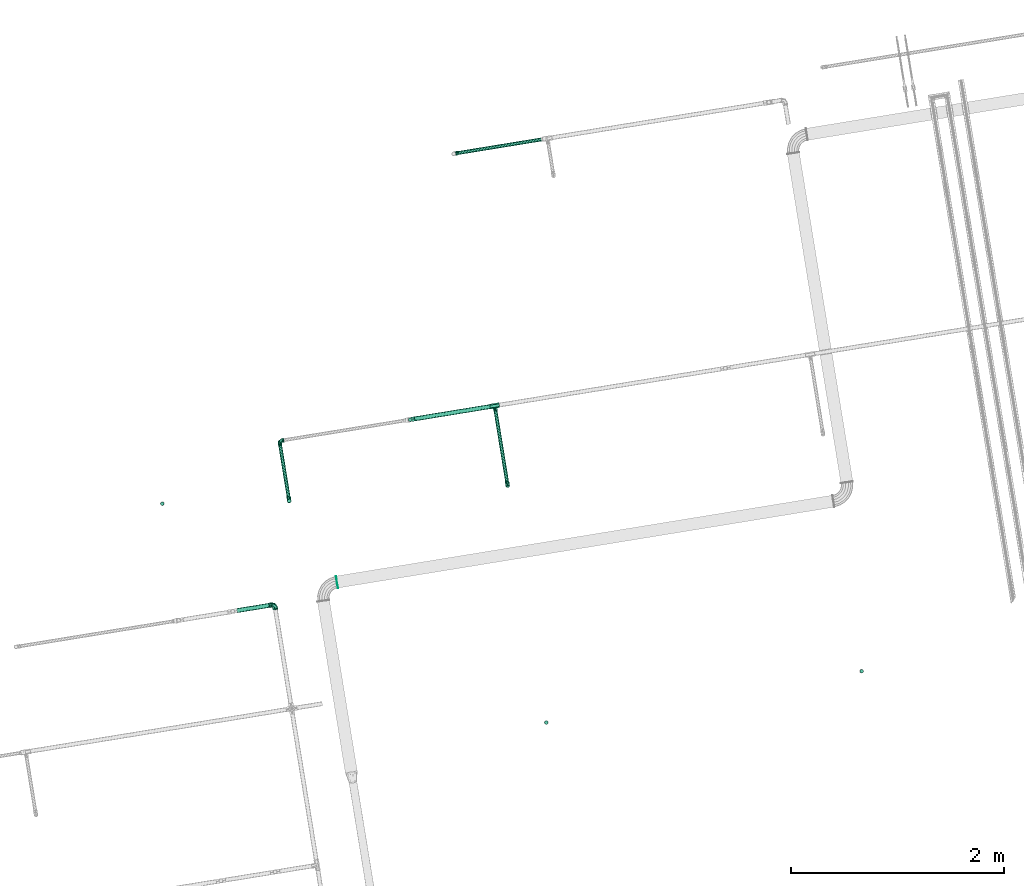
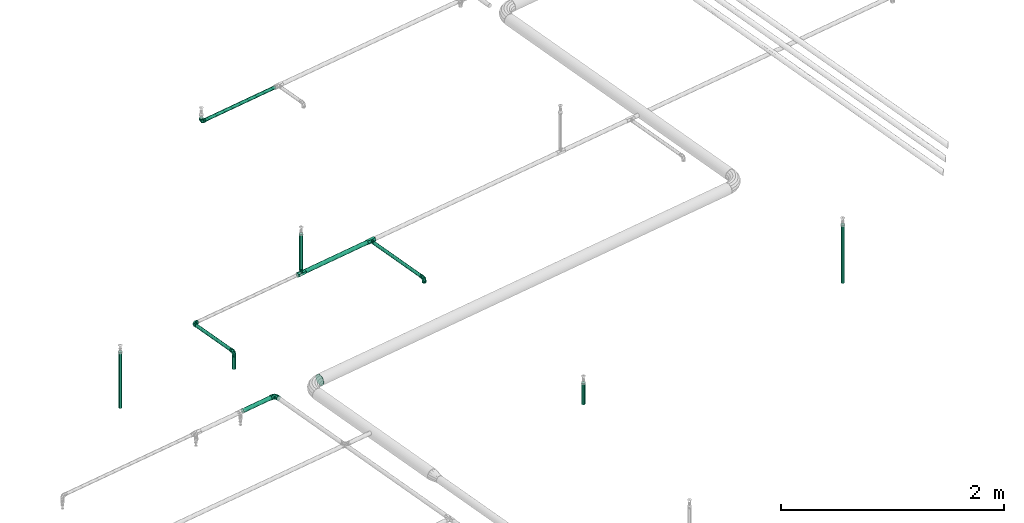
# One storey, part 23 of 46: 10 flow segments, 8 flow fittings.
"""IFC2X3 building model written with IfcOpenShell, lengths in millimetres."""

from ifc_helpers import new_model, entity, si_unit, converted_unit, derived_unit, direction, frame, frame_2d, origin, origin_with_axes, origin_2d_with_axis, place, context, subcontext, project, spatial, circle, extrude, faceted_brep, source, transform, mapped, material, type_object, element, save


model = new_model("IFC2X3")

# Units and contexts
model_context = context("Model", 3, precision=0.01, world=origin(), true_north=direction((6.12323399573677e-17, 1.0)))
plan_context = context("Plan", 3, precision=1e-05, world=origin_with_axes())
body_context = subcontext(model_context, "Body", "Model", "MODEL_VIEW")
ifc_project = project(units=[converted_unit("PLANEANGLEUNIT", "DEGREE", entity("IfcPositiveLengthMeasure", 0.0174532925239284), si_unit("PLANEANGLEUNIT", "RADIAN"), dimensions=[0, 0, 0, 0, 0, 0, 0]), si_unit("AREAUNIT", "SQUARE_METRE"), si_unit("LENGTHUNIT", "METRE", prefix="MILLI"), si_unit("MASSUNIT", "GRAM", prefix="KILO"), si_unit("POWERUNIT", "WATT"), si_unit("PRESSUREUNIT", "PASCAL", prefix="KILO"), si_unit("FORCEUNIT", "NEWTON", prefix="KILO"), si_unit("ELECTRICVOLTAGEUNIT", "VOLT"), si_unit("ELECTRICCURRENTUNIT", "AMPERE"), si_unit("THERMODYNAMICTEMPERATUREUNIT", "DEGREE_CELSIUS"), si_unit("TIMEUNIT", "SECOND"), si_unit("VOLUMEUNIT", "CUBIC_METRE"), derived_unit("LINEARVELOCITYUNIT", [(si_unit("LENGTHUNIT", "METRE"), 1), (si_unit("TIMEUNIT", "SECOND"), -1)]), derived_unit("VOLUMETRICFLOWRATEUNIT", [(si_unit("VOLUMEUNIT", "CUBIC_METRE"), 1), (si_unit("TIMEUNIT", "SECOND"), -1)]), derived_unit("THERMALTRANSMITTANCEUNIT", [(si_unit("POWERUNIT", "WATT"), 1), (si_unit("THERMODYNAMICTEMPERATUREUNIT", "KELVIN"), -1), (si_unit("AREAUNIT", "SQUARE_METRE"), -1)]), derived_unit("SOUNDPRESSUREUNIT", [(si_unit("PRESSUREUNIT", "PASCAL"), 1)])], contexts=[model_context, plan_context])

# Site, building, storey
site_placement = place(None, frame((-3.09682673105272e-06, 1.93776733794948e-05, 0.0), z_axis=(0.0, 0.0, 1.0), x_axis=(-0.160806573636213, 0.986985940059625, 0.0)))
site = spatial("IfcSite", under=ifc_project, at=site_placement, Name="Default", CompositionType="ELEMENT")
building_placement = place(site_placement, frame((0.0, 0.0, 0.0), z_axis=(0.0, 0.0, 1.0), x_axis=(1.0, -2.77555756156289e-17, 0.0)))
building = spatial("IfcBuilding", under=site, at=building_placement, Name="Bygning (endres i Project Information)", CompositionType="ELEMENT")
storey_placement = place(building_placement, frame((0.0, 0.0, 51360.0000000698), z_axis=(0.0, 0.0, 1.0), x_axis=(1.0, -2.77555756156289e-17, 0.0)))
storey = spatial("IfcBuildingStorey", under=building, at=storey_placement, Name="H01-Nivå D+0,36", CompositionType="ELEMENT", Elevation=51360.0000000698)

# Flow fittings
ifc_material_1 = material(Name="<Unnamed>")
pipe_fitting_type_1 = type_object("IfcPipeFittingType", Name="Sveis:Sveis", PredefinedType="NOTDEFINED", material=ifc_material_1)
shared_shape_1 = source(origin(), body_context, "Body", "SweptSolid", [
    extrude(circle(Radius=57.15, at=frame_2d((-2.60051383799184e-15, -9.23283724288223e-14), x_axis=(1.0, 0.0))), origin(), (0.0, 0.0, 1.0), 2.0),
])
flow_fitting_1_placement = place(storey_placement, frame((1004893.45605167, -347249.584018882, 3299.95000040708), z_axis=(-2.77555756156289e-17, -1.0, 0.0), x_axis=(1.0, -2.77555756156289e-17, 0.0)))
element("IfcFlowFitting", 1, at=flow_fitting_1_placement, inside=storey, type_object=pipe_fitting_type_1, material=ifc_material_1, Name="Sveis:Sveis", ObjectType="Sveis:Sveis", context=body_context, shape_type="MappedRepresentation", body=[
    mapped(shared_shape_1, transform((0.0, 0.0, 0.0), scale=1.0)),
])
ifc_material_2 = material(Name="3320.001")
pipe_fitting_type_2 = type_object("IfcPipeFittingType", Name="RS_53_PIF_UN_Tee-Reduced-EN10241_MC_gen:RS_53_PIF_UN_Tee-Reduced-EN10241_MC_gen", PredefinedType="NOTDEFINED", material=ifc_material_2)
shared_shape_2 = source(origin(), body_context, "Body", "Brep", [
    faceted_brep([(44.0, 24.4999999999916, 0.0), (44.0, 18.3749999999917, 10.6088111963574), (44.0, 12.2499999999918, 21.2176223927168), (44.0, 0.0, 21.2176223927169), (44.0, -12.2500000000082, 21.217622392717), (44.0, -18.3750000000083, 10.6088111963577), (44.0, -24.5000000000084, 0.0), (44.0, -21.6281924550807, -4.97411657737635), (44.0, -18.3750000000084, -10.6088111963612), (44.0, -12.2500000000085, -21.2176223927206), (44.0, 0.0, -21.2176223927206), (44.0, 12.2499999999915, -21.2176223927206), (44.0, 18.3749999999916, -10.6088111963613), (-44.0, -12.2500000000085, -21.2176223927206), (-44.0, -18.3750000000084, -10.6088111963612), (-44.0, -24.5000000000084, 0.0), (-44.0, -21.6281923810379, 4.97411670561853), (-44.0, -18.3750000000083, 10.6088111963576), (-44.0, -12.2500000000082, 21.217622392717), (-44.0, 0.0, 21.2176223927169), (-44.0, 12.2499999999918, 21.2176223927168), (-44.0, 18.7563847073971, 9.94823350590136), (-44.0, 24.4999999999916, 0.0), (-44.0, 18.3749999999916, -10.6088111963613), (-44.0, 12.2499999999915, -21.2176223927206), (-44.0, 0.0, -21.2176223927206), (-8.07289668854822, -19.7195683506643, 9.70917342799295), (3.60420662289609, -14.9391367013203, 19.4183468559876), (15.7135516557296, -22.1097841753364, 4.85458671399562), (-19.7499999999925, -24.5000000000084, 0.0), (11.6771033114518, -19.7195683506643, 9.70917342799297), (19.7500000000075, -24.5000000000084, 0.0), (-15.715142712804, -22.1101683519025, -4.85429113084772), (-3.61057085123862, -14.9406734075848, -19.4171645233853), (-11.6802854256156, -19.7203367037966, -9.70858226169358), (8.06971457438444, -19.7203367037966, -9.70858226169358), (9.87500000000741, -51.0, -17.1040017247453), (14.8125000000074, -51.0, -8.55200086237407), (19.7500000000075, -51.0, 0.0), (14.8125000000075, -51.0, 8.55200086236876), (9.87500000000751, -51.0, 17.1040017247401), (0.0, -51.0, 17.1040017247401), (-9.87499999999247, -51.0, 17.1040017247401), (-14.8124999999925, -51.0, 8.55200086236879), (-19.7499999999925, -51.0, 0.0), (-14.8124999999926, -51.0, -8.55200086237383), (-9.87499999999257, -51.0, -17.1040017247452), (0.0, -51.0, -17.1040017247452)], [[[0, 1, 2, 3, 4, 5, 6, 7, 8, 9, 10, 11, 12]], [[13, 14, 15, 16, 17, 18, 19, 20, 21, 22, 23, 24, 25]], [[1, 0, 22, 21, 20, 2]], [[2, 20, 19, 3]], [[26, 17, 16]], [[18, 27, 19]], [[28, 6, 5]], [[29, 16, 15]], [[5, 27, 30, 28]], [[5, 4, 27]], [[27, 17, 26]], [[17, 27, 18]], [[26, 16, 29]], [[6, 28, 31]], [[19, 27, 3]], [[4, 3, 27]], [[32, 15, 14]], [[14, 33, 34, 32]], [[31, 7, 6]], [[35, 8, 7]], [[8, 33, 9]], [[33, 8, 35]], [[15, 32, 29]], [[24, 23, 22, 0, 12, 11]], [[25, 24, 11, 10]], [[14, 13, 33]], [[13, 25, 33]], [[35, 7, 31]], [[10, 33, 25]], [[10, 9, 33]], [[36, 37, 38, 39, 40, 41, 42, 43, 44, 45, 46, 47]], [[29, 45, 44]], [[34, 46, 45]], [[35, 36, 47]], [[33, 46, 34]], [[37, 36, 35]], [[45, 29, 32, 34]], [[31, 37, 35]], [[37, 31, 38]], [[47, 46, 33]], [[35, 47, 33]], [[31, 39, 38]], [[30, 40, 39]], [[26, 42, 41]], [[27, 40, 30]], [[43, 42, 26]], [[39, 31, 28, 30]], [[29, 43, 26]], [[43, 29, 44]], [[41, 40, 27]], [[26, 41, 27]]]),
])
for number, where, z_axis, x_axis in (
    (2, (1006288.36764382, -348173.710153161, 3299.95081497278), (1.0, -2.77555756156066e-17, 3.52015190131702e-23), (-2.77555756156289e-17, -0.999999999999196, 1.26826838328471e-06)),
    (3, (1006288.36764382, -348978.631006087, 3299.95183582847), (6.11859509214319e-05, 1.26826837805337e-06, 0.999999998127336), (-2.77555756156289e-17, -0.999999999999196, 1.26826838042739e-06)),
):
    element("IfcFlowFitting", number, at=place(storey_placement, frame(where, z_axis=z_axis, x_axis=x_axis)), inside=storey, type_object=pipe_fitting_type_2, material=ifc_material_2, Name="RS_53_PIF_UN_Tee-Reduced-EN10241_MC_gen:RS_53_PIF_UN_Tee-Reduced-EN10241_MC_gen", ObjectType="RS_53_PIF_UN_Tee-Reduced-EN10241_MC_gen:RS_53_PIF_UN_Tee-Reduced-EN10241_MC_gen", context=body_context, shape_type="MappedRepresentation", body=[
        mapped(shared_shape_2, transform((0.0, 0.0, 0.0), scale=1.0)),
    ])
pipe_fitting_type_3 = type_object("IfcPipeFittingType", Name="RS_53_PIF_UN_Elbow-EN10241_NOR:RS_53_PIF_UN_Elbow-EN10241_NOR", PredefinedType="NOTDEFINED", material=ifc_material_2)
shared_shape_3 = source(origin(), body_context, "Body", "Brep", [
    faceted_brep([(-43.0, 5.11167614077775, 19.0770350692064), (-43.0, 17.1040017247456, 9.87499999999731), (-43.0, 19.7500000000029, 0.0), (-43.0, 17.1040017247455, -9.87500000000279), (-43.0, 5.11167614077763, -19.0770350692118), (-43.0, -5.11167614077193, -19.0770350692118), (-43.0, -17.1040017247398, -9.87500000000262), (-43.0, -19.7499999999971, 0.0), (-43.0, -17.1040017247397, 9.87499999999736), (-43.0, -5.11167614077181, 19.0770350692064), (-21.7499999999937, -19.7499999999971, 0.0), (-21.7499999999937, -15.1293510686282, -12.6950870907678), (-21.7499999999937, -3.42946974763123, -19.4499675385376), (-21.7499999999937, 15.1294711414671, -12.694943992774), (-21.7499999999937, 19.7500000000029, 0.0), (-21.7499999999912, 5.85000069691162, -16.072455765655), (-21.7499999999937, 15.1294711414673, 12.6949439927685), (-21.7499999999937, 3.42965371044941, 19.4499351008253), (-21.7499999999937, -15.1293510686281, 12.6950870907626), (-5.41688095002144, -10.3200693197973, 0.0), (0.655979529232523, -2.00253561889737, 16.4678355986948), (-11.0449015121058, 9.84579831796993, 18.897380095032), (-18.5589216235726, 21.7499999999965, 6.75491881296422), (-15.1293490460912, 21.7499999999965, 12.6950895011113), (-20.3357864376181, 20.3357864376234, 0.0), (-19.7499999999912, 21.7499999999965, 0.0), (14.190054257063, 1.0, 0.0), (12.6950125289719, 21.7499999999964, 15.1294136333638), (6.75482439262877, 21.7499999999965, 18.5589559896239), (17.2232575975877, 12.3200689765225, 0.0), (-6.754824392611, 21.7499999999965, 18.558955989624), (19.7500000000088, 21.7499999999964, 0.0), (18.5589216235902, 21.7499999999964, 6.75491881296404), (0.0, 21.7499999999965, 19.7499999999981), (-18.5589216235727, 21.7499999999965, -6.75491881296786), (-10.1618436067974, 10.1618877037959, -19.0082217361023), (1.2569166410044, -0.890945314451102, -16.7093898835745), (0.0, 21.7499999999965, -19.7500000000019), (-6.75482439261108, 21.7499999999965, -18.5589559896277), (-12.6950125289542, 21.7499999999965, -15.1294136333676), (18.5589216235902, 21.7499999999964, -6.75491881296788), (15.1293490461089, 21.7499999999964, -12.6950895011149), (6.75482439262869, 21.7499999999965, -18.5589559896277), (-9.8749999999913, 43.0, 17.1040017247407), (0.0, 43.0, 19.7499999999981), (9.8750000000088, 43.0, 17.1040017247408), (19.0770350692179, 43.0, 5.11167614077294), (19.0770350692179, 43.0, -5.11167614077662), (9.87500000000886, 43.0, -17.1040017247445), (0.0, 43.0, -19.7500000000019), (-9.87499999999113, 43.0, -17.1040017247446), (-19.0770350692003, 43.0, -5.11167614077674), (-19.0770350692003, 43.0, 5.11167614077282)], [[[0, 1, 2, 3, 4, 5, 6, 7, 8, 9]], [[7, 6, 10]], [[6, 11, 10]], [[11, 6, 5]], [[11, 5, 12]], [[13, 4, 3]], [[14, 3, 2]], [[4, 13, 15, 12]], [[13, 3, 14]], [[4, 12, 5]], [[2, 1, 14]], [[1, 16, 14]], [[16, 1, 0]], [[16, 0, 17]], [[18, 9, 8]], [[10, 8, 7]], [[9, 18, 17]], [[18, 8, 10]], [[9, 17, 0]], [[18, 19, 20]], [[20, 21, 17]], [[22, 16, 23]], [[16, 17, 21]], [[24, 14, 22]], [[22, 25, 24]], [[14, 16, 22]], [[20, 26, 27]], [[27, 28, 20]], [[26, 29, 27]], [[23, 21, 30]], [[31, 32, 29]], [[18, 20, 17]], [[26, 20, 19]], [[21, 23, 16]], [[18, 10, 19]], [[33, 21, 20]], [[33, 30, 21]], [[27, 29, 32]], [[33, 20, 28]], [[14, 24, 34]], [[25, 34, 24]], [[12, 35, 36]], [[14, 34, 13]], [[36, 19, 11]], [[37, 35, 38]], [[38, 35, 39]], [[10, 11, 19]], [[34, 39, 13]], [[37, 36, 35]], [[36, 11, 12]], [[39, 35, 13]], [[40, 31, 29]], [[41, 36, 42]], [[36, 37, 42]], [[41, 40, 29]], [[26, 36, 41]], [[29, 26, 41]], [[19, 36, 26]], [[13, 35, 12, 15]], [[43, 44, 45, 46, 47, 48, 49, 50, 51, 52]], [[49, 37, 38]], [[50, 38, 39]], [[49, 38, 50]], [[51, 50, 39]], [[51, 34, 25]], [[34, 51, 39]], [[52, 25, 22]], [[22, 23, 52]], [[30, 43, 23]], [[52, 23, 43]], [[44, 43, 30]], [[33, 44, 30]], [[25, 52, 51]], [[44, 33, 28]], [[45, 28, 27]], [[44, 28, 45]], [[46, 45, 27]], [[46, 32, 31]], [[32, 46, 27]], [[47, 31, 40]], [[40, 41, 47]], [[42, 48, 41]], [[47, 41, 48]], [[49, 48, 42]], [[37, 49, 42]], [[31, 47, 46]]]),
])
flow_fitting_2_placement = place(storey_placement, frame((1008686.77221849, -348978.631006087, 3299.97991647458), z_axis=(-1.0, 2.77555756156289e-17, 0.0), x_axis=(0.0, 0.0, -1.0)))
element("IfcFlowFitting", 4, at=flow_fitting_2_placement, inside=storey, type_object=pipe_fitting_type_3, material=ifc_material_2, Name="RS_53_PIF_UN_Elbow-EN10241_NOR:RS_53_PIF_UN_Elbow-EN10241_NOR", ObjectType="RS_53_PIF_UN_Elbow-EN10241_NOR:RS_53_PIF_UN_Elbow-EN10241_NOR", context=body_context, shape_type="MappedRepresentation", body=[
    mapped(shared_shape_3, transform((0.0, 0.0, 0.0), scale=1.0)),
])
pipe_fitting_type_4 = type_object("IfcPipeFittingType", Name="RS_53_PIF_UN_Elbow-EN10241_NOR:RS_53_PIF_UN_Elbow-EN10241_NOR", PredefinedType="NOTDEFINED", material=ifc_material_2)
flow_fitting_3_placement = place(storey_placement, frame((1006288.36764374, -346930.845437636, 3299.94923868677), z_axis=(6.90436672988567e-05, 1.2682683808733e-06, 0.999999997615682), x_axis=(2.77555756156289e-17, 0.999999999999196, -1.26826838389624e-06)))
element("IfcFlowFitting", 5, at=flow_fitting_3_placement, inside=storey, type_object=pipe_fitting_type_4, material=ifc_material_2, Name="RS_53_PIF_UN_Elbow-EN10241_NOR:RS_53_PIF_UN_Elbow-EN10241_NOR", ObjectType="RS_53_PIF_UN_Elbow-EN10241_NOR:RS_53_PIF_UN_Elbow-EN10241_NOR", context=body_context, shape_type="MappedRepresentation", body=[
    mapped(shared_shape_3, transform((0.0, 0.0, 0.0), scale=1.0)),
])
pipe_fitting_type_5 = type_object("IfcPipeFittingType", Name="RS_53_PIF_UN_Elbow-EN10241_NOR:RS_53_PIF_UN_Elbow-EN10241_NOR", PredefinedType="NOTDEFINED", material=ifc_material_2)
flow_fitting_4_placement = place(storey_placement, frame((1005716.96145091, -346930.845437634, 3300.00165014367), z_axis=(2.77555756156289e-17, 1.0, 0.0), x_axis=(0.0, 0.0, 1.0)))
element("IfcFlowFitting", 6, at=flow_fitting_4_placement, inside=storey, type_object=pipe_fitting_type_5, material=ifc_material_2, Name="RS_53_PIF_UN_Elbow-EN10241_NOR:RS_53_PIF_UN_Elbow-EN10241_NOR", ObjectType="RS_53_PIF_UN_Elbow-EN10241_NOR:RS_53_PIF_UN_Elbow-EN10241_NOR", context=body_context, shape_type="MappedRepresentation", body=[
    mapped(shared_shape_3, transform((0.0, 0.0, 0.0), scale=1.0)),
])
pipe_fitting_type_6 = type_object("IfcPipeFittingType", Name="RS_53_PIF_UN_Elbow-EN10241_NOR:RS_53_PIF_UN_Elbow-EN10241_NOR", PredefinedType="NOTDEFINED", material=ifc_material_2)
flow_fitting_5_placement = place(storey_placement, frame((1005529.26172123, -348978.631006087, 3300.00157040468), z_axis=(2.77555756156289e-17, 1.0, 0.0), x_axis=(0.0, 0.0, 1.0)))
element("IfcFlowFitting", 7, at=flow_fitting_5_placement, inside=storey, type_object=pipe_fitting_type_6, material=ifc_material_2, Name="RS_53_PIF_UN_Elbow-EN10241_NOR:RS_53_PIF_UN_Elbow-EN10241_NOR", ObjectType="RS_53_PIF_UN_Elbow-EN10241_NOR:RS_53_PIF_UN_Elbow-EN10241_NOR", context=body_context, shape_type="MappedRepresentation", body=[
    mapped(shared_shape_3, transform((0.0, 0.0, 0.0), scale=1.0)),
])
pipe_fitting_type_7 = type_object("IfcPipeFittingType", Name="RS_53_PIF_UN_Elbow-EN10241_NOR:RS_53_PIF_UN_Elbow-EN10241_NOR", PredefinedType="NOTDEFINED", material=ifc_material_2)
shared_shape_4 = source(origin(), body_context, "Body", "Brep", [
    faceted_brep([(-51.0, -6.3410666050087, 23.6651827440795), (-51.0, 6.34106660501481, 23.6651827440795), (-51.0, 21.2176223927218, 12.2499999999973), (-51.0, 24.500000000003, 0.0), (-51.0, 21.2176223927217, -12.2500000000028), (-51.0, 6.34106660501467, -23.6651827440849), (-51.0, -6.34106660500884, -23.6651827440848), (-51.0, -21.2176223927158, -12.2500000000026), (-51.0, -24.499999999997, 0.0), (-51.0, -21.2176223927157, 12.2499999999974), (-26.4999999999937, -24.499999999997, 0.0), (-26.4999999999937, -18.7681172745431, -15.748262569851), (-26.4999999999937, -4.25446743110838, -24.127774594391), (-26.4999999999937, 18.7679893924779, -15.7484149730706), (-26.4999999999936, 24.500000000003, 0.0), (-26.4999999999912, 7.25676098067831, -19.93809478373), (-26.4999999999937, 18.767989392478, 15.748414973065), (-26.4999999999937, 4.25427150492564, 24.1278091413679), (-26.4999999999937, -18.768117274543, 15.7482625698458), (9.56244584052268, -9.56244584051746, 0.0), (1.44520749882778, -2.06499718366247, 20.4706468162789), (-4.4422497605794, -15.3633806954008, 0.0), (-13.5214833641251, 12.0473079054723, 23.4561571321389), (-18.7679735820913, 26.4999999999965, 15.7484338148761), (-8.37919860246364, 26.4999999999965, 23.022576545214), (-25.0857864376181, 25.0857864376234, 0.0), (-23.0224385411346, 26.4999999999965, 8.37957777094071), (-24.4999999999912, 26.4999999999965, 0.0), (15.3633803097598, 4.44224882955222, 0.0), (19.9316901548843, 15.4711244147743, 0.0), (15.7481247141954, 26.4999999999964, 18.7682329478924), (8.37919860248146, 26.4999999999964, 23.0225765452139), (24.5000000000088, 26.4999999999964, 0.0), (23.0224385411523, 26.4999999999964, 8.37957777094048), (0.0, 26.4999999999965, 24.4999999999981), (-23.0224385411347, 26.4999999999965, -8.37957777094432), (1.80976526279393, -1.36091655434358, -20.6272450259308), (-15.7481247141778, 26.4999999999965, -18.7682329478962), (-8.37919860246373, 26.4999999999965, -23.0225765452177), (0.0, 26.4999999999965, -24.5000000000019), (18.767973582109, 26.4999999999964, -15.7484338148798), (23.0224385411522, 26.4999999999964, -8.37957777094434), (8.37919860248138, 26.4999999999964, -23.0225765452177), (0.0, 51.0, -24.5000000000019), (-12.2499999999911, 51.0, -21.2176223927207), (-23.6651827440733, 51.0, -6.34106660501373), (-23.6651827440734, 51.0, 6.34106660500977), (-12.2499999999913, 51.0, 21.2176223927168), (0.0, 51.0, 24.4999999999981), (12.2500000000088, 51.0, 21.2176223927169), (23.665182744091, 51.0, 6.34106660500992), (23.665182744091, 51.0, -6.34106660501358), (12.2500000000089, 51.0, -21.2176223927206)], [[[0, 1, 2, 3, 4, 5, 6, 7, 8, 9]], [[8, 7, 10]], [[7, 11, 10]], [[11, 7, 6]], [[11, 6, 12]], [[13, 5, 4]], [[14, 4, 3]], [[5, 13, 15, 12]], [[13, 4, 14]], [[5, 12, 6]], [[3, 2, 14]], [[2, 16, 14]], [[16, 2, 1]], [[16, 1, 17]], [[18, 0, 9]], [[10, 9, 8]], [[0, 18, 17]], [[18, 9, 10]], [[0, 17, 1]], [[19, 20, 21]], [[16, 17, 22]], [[21, 20, 18]], [[18, 10, 21]], [[23, 22, 24]], [[25, 14, 26]], [[26, 27, 25]], [[16, 26, 14]], [[19, 28, 20]], [[28, 29, 30]], [[30, 20, 28]], [[20, 22, 17]], [[30, 31, 20]], [[29, 32, 33]], [[22, 34, 24]], [[16, 23, 26]], [[30, 29, 33]], [[23, 16, 22]], [[34, 22, 20]], [[18, 20, 17]], [[31, 34, 20]], [[35, 13, 14]], [[21, 10, 11]], [[35, 14, 25]], [[36, 21, 11]], [[36, 11, 12]], [[13, 37, 15]], [[35, 25, 27]], [[36, 12, 15]], [[36, 15, 38]], [[38, 39, 36]], [[29, 28, 40]], [[41, 32, 29]], [[13, 35, 37]], [[40, 41, 29]], [[36, 42, 40]], [[19, 36, 28]], [[37, 38, 15]], [[21, 36, 19]], [[28, 36, 40]], [[42, 36, 39]], [[43, 44, 45, 46, 47, 48, 49, 50, 51, 52]], [[43, 39, 38]], [[44, 38, 37]], [[43, 38, 44]], [[45, 44, 37]], [[45, 35, 27]], [[35, 45, 37]], [[46, 27, 26]], [[26, 23, 46]], [[24, 47, 23]], [[46, 23, 47]], [[48, 47, 24]], [[34, 48, 24]], [[27, 46, 45]], [[48, 34, 31]], [[49, 31, 30]], [[48, 31, 49]], [[50, 49, 30]], [[50, 33, 32]], [[33, 50, 30]], [[51, 32, 41]], [[41, 40, 51]], [[42, 52, 40]], [[51, 40, 52]], [[43, 52, 42]], [[39, 43, 42]], [[32, 51, 50]]]),
])
flow_fitting_6_placement = place(storey_placement, frame((1004779.64983251, -346638.795665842, 3458.79999913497), z_axis=(0.0, 0.0, 1.0), x_axis=(1.0, -2.77555756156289e-17, 0.0)))
element("IfcFlowFitting", 8, at=flow_fitting_6_placement, inside=storey, type_object=pipe_fitting_type_7, material=ifc_material_2, Name="RS_53_PIF_UN_Elbow-EN10241_NOR:RS_53_PIF_UN_Elbow-EN10241_NOR", ObjectType="RS_53_PIF_UN_Elbow-EN10241_NOR:RS_53_PIF_UN_Elbow-EN10241_NOR", context=body_context, shape_type="MappedRepresentation", body=[
    mapped(shared_shape_4, transform((0.0, 0.0, 0.0), scale=1.0)),
])

# Flow segments
pipe_segment_type = type_object("IfcPipeSegmentType", Name="Pipe Types:Stålrør sveist og gjenget", PredefinedType="NOTDEFINED", material=ifc_material_2)
flow_segment_1_placement = place(storey_placement, frame((0.0, 0.0, 0.0), z_axis=(0.0, 0.0, 1.0), x_axis=(1.0, -2.77555756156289e-17, 0.0)))
element("IfcFlowSegment", 9, at=flow_segment_1_placement, inside=storey, type_object=pipe_segment_type, Name="Pipe Types:Stålrør sveist og gjenget", ObjectType="Pipe Types:Stålrør sveist og gjenget", context=body_context, shape_type="SweptSolid", body=[
    extrude(circle(Radius=16.8500004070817, at=frame_2d((0.0, -8.6629370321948e-12), x_axis=(1.0, 0.0))), frame((1008686.77221849, -349002.531006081, 3299.98045416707), z_axis=(0.0, -1.0, 2.2497594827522e-05), x_axis=(-1.0, 0.0, 0.0)), (0.0, 0.0, 1.0), 827.529894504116),
])
flow_segment_2_placement = place(storey_placement, frame((0.0, 0.0, 0.0), z_axis=(0.0, 0.0, 1.0), x_axis=(1.0, -2.77555756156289e-17, 0.0)))
element("IfcFlowSegment", 10, at=flow_segment_2_placement, inside=storey, type_object=pipe_segment_type, Name="Pipe Types:Stålrør sveist og gjenget", ObjectType="Pipe Types:Stålrør sveist og gjenget", context=body_context, shape_type="SweptSolid", body=[
    extrude(circle(Radius=16.8500004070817, at=origin_2d_with_axis()), frame((1003275.40186569, -351978.631006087, 3148.26666666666), z_axis=(0.0, 0.0, 1.0), x_axis=(-1.0, 0.0, 0.0)), (0.0, 0.0, 1.0), 636.733333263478),
])
flow_segment_3_placement = place(storey_placement, frame((0.0, 0.0, 0.0), z_axis=(0.0, 0.0, 1.0), x_axis=(1.0, -2.77555756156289e-17, 0.0)))
element("IfcFlowSegment", 11, at=flow_segment_3_placement, inside=storey, type_object=pipe_segment_type, Name="Pipe Types:Stålrør sveist og gjenget", ObjectType="Pipe Types:Stålrør sveist og gjenget", context=body_context, shape_type="SweptSolid", body=[
    extrude(circle(Radius=16.8500004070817, at=origin_2d_with_axis()), frame((1006288.36764382, -348173.710112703, 3331.85081497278), z_axis=(0.0, -3.16675188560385e-07, 1.0), x_axis=(-1.0, 0.0, 0.0)), (0.0, 0.0, 1.0), 404.961310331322),
])
flow_segment_4_placement = place(storey_placement, frame((0.0, 0.0, 0.0), z_axis=(0.0, 0.0, 1.0), x_axis=(1.0, -2.77555756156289e-17, 0.0)))
element("IfcFlowSegment", 12, at=flow_segment_4_placement, inside=storey, type_object=pipe_segment_type, Name="Pipe Types:Stålrør sveist og gjenget", ObjectType="Pipe Types:Stålrør sveist og gjenget", context=body_context, shape_type="SweptSolid", body=[
    extrude(circle(Radius=21.2000007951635, at=origin_2d_with_axis()), frame((1006288.36764382, -348956.031006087, 3299.9518071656), z_axis=(0.0, 1.0, 0.0), x_axis=(1.0, 0.0, 0.0)), (0.0, 0.0, 1.0), 759.720852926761),
])
flow_segment_5_placement = place(storey_placement, frame((0.0, 0.0, 0.0), z_axis=(0.0, 0.0, 1.0), x_axis=(1.0, -2.77555756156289e-17, 0.0)))
element("IfcFlowSegment", 13, at=flow_segment_5_placement, inside=storey, type_object=pipe_segment_type, Name="Pipe Types:Stålrør sveist og gjenget", ObjectType="Pipe Types:Stålrør sveist og gjenget", context=body_context, shape_type="SweptSolid", body=[
    extrude(circle(Radius=16.8500004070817, at=origin_2d_with_axis()), frame((1005553.16172123, -348978.631006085, 3300.0), z_axis=(0.999999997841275, 0.0, -6.57073090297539e-05), x_axis=(0.0, 1.0, 0.0)), (0.0, 0.0, 1.0), 703.305924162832),
])
flow_segment_6_placement = place(storey_placement, frame((0.0, 0.0, 0.0), z_axis=(0.0, 0.0, 1.0), x_axis=(1.0, -2.77555756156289e-17, 0.0)))
element("IfcFlowSegment", 14, at=flow_segment_6_placement, inside=storey, type_object=pipe_segment_type, Name="Pipe Types:Stålrør sveist og gjenget", ObjectType="Pipe Types:Stålrør sveist og gjenget", context=body_context, shape_type="SweptSolid", body=[
    extrude(circle(Radius=16.8500004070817, at=origin_2d_with_axis()), frame((1005716.96145091, -346930.845437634, 3117.0), z_axis=(0.0, 0.0, 1.0), x_axis=(-1.0, 0.0, 0.0)), (0.0, 0.0, 1.0), 161.250148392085),
])
flow_segment_7_placement = place(storey_placement, frame((0.0, 0.0, 0.0), z_axis=(0.0, 0.0, 1.0), x_axis=(1.0, -2.77555756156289e-17, 0.0)))
element("IfcFlowSegment", 15, at=flow_segment_7_placement, inside=storey, type_object=pipe_segment_type, Name="Pipe Types:Stålrør sveist og gjenget", ObjectType="Pipe Types:Stålrør sveist og gjenget", context=body_context, shape_type="SweptSolid", body=[
    extrude(circle(Radius=16.8500004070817, at=origin_2d_with_axis()), frame((1006264.4676438, -346930.845437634, 3299.95088883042), z_axis=(-0.999999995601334, 0.0, 9.37940957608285e-05), x_axis=(0.0, 1.0, 0.0)), (0.0, 0.0, 1.0), 523.606198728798),
])
flow_segment_8_placement = place(storey_placement, frame((0.0, 0.0, 0.0), z_axis=(0.0, 0.0, 1.0), x_axis=(1.0, -2.77555756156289e-17, 0.0)))
element("IfcFlowSegment", 16, at=flow_segment_8_placement, inside=storey, type_object=pipe_segment_type, Name="Pipe Types:Stålrør sveist og gjenget", ObjectType="Pipe Types:Stålrør sveist og gjenget", context=body_context, shape_type="SweptSolid", body=[
    extrude(circle(Radius=16.8500004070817, at=origin_2d_with_axis()), frame((1003275.40186569, -348978.631006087, 3148.26666666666), z_axis=(0.0, 0.0, 1.0), x_axis=(-1.0, 0.0, 0.0)), (0.0, 0.0, 1.0), 236.733333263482),
])
flow_segment_9_placement = place(storey_placement, frame((0.0, 0.0, 0.0), z_axis=(0.0, 0.0, 1.0), x_axis=(1.0, -2.77555756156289e-17, 0.0)))
element("IfcFlowSegment", 17, at=flow_segment_9_placement, inside=storey, type_object=pipe_segment_type, Name="Pipe Types:Stålrør sveist og gjenget", ObjectType="Pipe Types:Stålrør sveist og gjenget", context=body_context, shape_type="SweptSolid", body=[
    extrude(circle(Radius=21.2000007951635, at=origin_2d_with_axis()), frame((1004779.64983251, -346609.195665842, 3458.8000262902), z_axis=(0.0, 1.0, 0.0), x_axis=(-1.0, 0.0, 0.0)), (0.0, 0.0, 1.0), 347.020542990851),
])
flow_segment_10_placement = place(storey_placement, frame((0.0, 0.0, 0.0), z_axis=(0.0, 0.0, 1.0), x_axis=(1.0, -2.77555756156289e-17, 0.0)))
element("IfcFlowSegment", 18, at=flow_segment_10_placement, inside=storey, type_object=pipe_segment_type, Name="Pipe Types:Stålrør sveist og gjenget", ObjectType="Pipe Types:Stålrør sveist og gjenget", context=body_context, shape_type="SweptSolid", body=[
    extrude(circle(Radius=16.8500004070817, at=origin_2d_with_axis()), frame((1005883.61028568, -345750.811296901, 3123.89999999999), z_axis=(0.0, 0.0, 1.0), x_axis=(-1.0, 0.0, 0.0)), (0.0, 0.0, 1.0), 612.91211897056),
])

save(model, "model.ifc")
